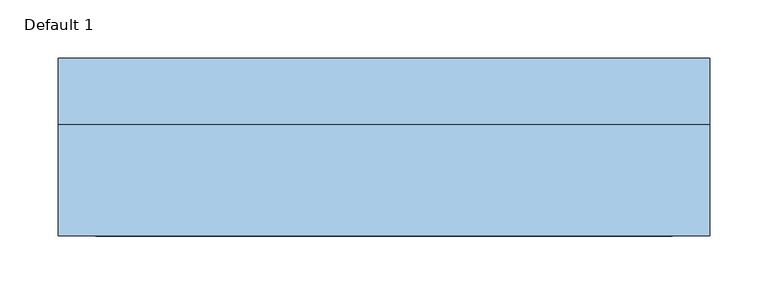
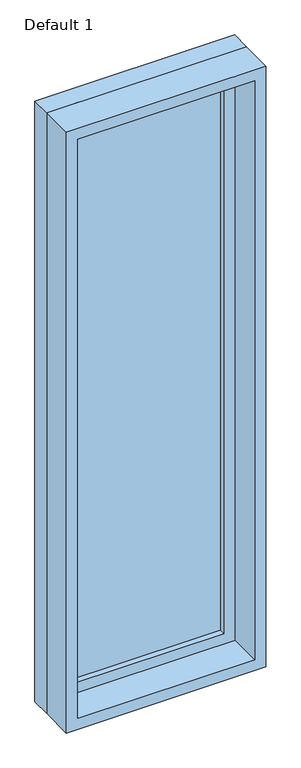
"""IFC4 building model written with IfcOpenShell, lengths in millimetres: window geometry, Planitar-Fixed : Default 1."""

from ifc_helpers import new_model, si_unit, frame, origin, place, context, project, spatial, polyline, outline, extrude, source, transform, mapped, element, save


def default_1_9119c667(model_context):
    return source(origin(), model_context, "Body", "SweptSolid", [
        extrude(outline(polyline([(2673.4, -260.4), (933.4, -260.4), (933.4, 260.4), (2673.4, 260.4), (2673.4, -260.4)]), holes=[polyline([(2629.4, -216.4), (2629.4, 216.4), (977.4, 216.4), (977.4, -216.4), (2629.4, -216.4)])]), frame((0.0, 32.5, 0.0), z_axis=(0.0, 1.0, 0.0), x_axis=(0.0, 0.0, 1.0)), (0.0, 0.0, 1.0), 44.0),
        extrude(outline(polyline([(2692.4, -279.4), (914.4, -279.4), (914.4, 279.4), (2692.4, 279.4), (2692.4, -279.4)]), holes=[polyline([(2673.4, -260.4), (2673.4, 260.4), (933.4, 260.4), (933.4, -260.4), (2673.4, -260.4)])]), frame((0.0, 32.5, 0.0), z_axis=(0.0, 1.0, 0.0), x_axis=(0.0, 0.0, 1.0)), (0.0, 0.0, 1.0), 56.7),
        extrude(outline(polyline([(2692.4, -279.4), (914.4, -279.4), (914.4, 279.4), (2692.4, 279.4), (2692.4, -279.4)]), holes=[polyline([(2660.4, -247.4), (2660.4, 247.4), (946.4, 247.4), (946.4, -247.4), (2660.4, -247.4)])]), frame((0.0, -63.2, 0.0), z_axis=(0.0, 1.0, 0.0), x_axis=(0.0, 0.0, 1.0)), (0.0, 0.0, 1.0), 95.7),
        extrude(outline(polyline([(-216.4, 60.5), (216.4, 60.5), (216.4, 48.5), (-216.4, 48.5), (-216.4, 60.5)])), frame((0.0, 0.0, 977.4), z_axis=(0.0, 0.0, 1.0), x_axis=(1.0, 0.0, 0.0)), (0.0, 0.0, 1.0), 1652.0),
    ])


if __name__ == "__main__":
    model = new_model("IFC4")
    model_context = context("Model", 3, world=origin())
    ifc_project = project(units=[si_unit("LENGTHUNIT", "METRE", prefix="MILLI")], contexts=[model_context])
    site = spatial("IfcSite", under=ifc_project)
    building = spatial("IfcBuilding", under=site)
    placement = place(None, origin())
    default_1_shape = default_1_9119c667(model_context)
    element("IfcWindow", 1, ObjectType="Planitar-Fixed : Default 1", at=placement, inside=building, context=model_context, shape_type="MappedRepresentation", body=[
        mapped(default_1_shape, transform((0.0, 0.0, 0.0), x_axis=(1.0, 0.0, 0.0), y_axis=(0.0, 1.0, 0.0), z_axis=(0.0, 0.0, 1.0))),
    ])
    save(model, "model.ifc")
